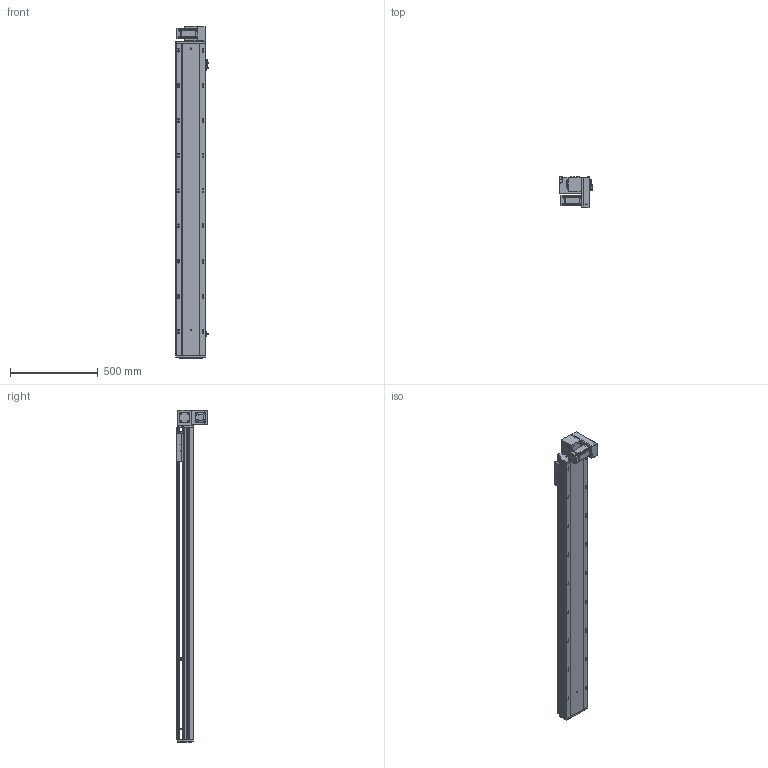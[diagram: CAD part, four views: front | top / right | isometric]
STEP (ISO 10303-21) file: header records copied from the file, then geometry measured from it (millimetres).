
FILE_DESCRIPTION (( 'STEP AP203' ), '1' );
FILE_NAME ('RY170-T-300-DR-P400W.SLDASM_1500.step', '2021-03-01T08:24:09', ( '盈信电脑' ), ( '东莞市道滘镇水果街19号' ), 'SwSTEP 2.0', 'SolidWorks 2012', '' );
FILE_SCHEMA (( 'CONFIG_CONTROL_DESIGN' ));
Length unit declared in the file: millimetre
Products named in the file (19): RY170-T-300-DR-P400W.SLDASM_1500; 15; 滅袉蝶18-10; RY170-T-呴雄粣揤踡啣; RY170-T蹟翐M4; RY120-T主同步轮轴承压盖; RY170-T肮祭謫裔啣; RY170-T肮祭湍揤踡輸1; RY170肮祭謫萇儂欶; RY170-T肮祭湍揤踡輸2; RY170肮祭謫ヶ裔啣; RY170翋肮祭謫釱; RY170外置感应片(200共用）; RY170同步轮电机安装板(400W); RY170綴裔啣; 覜茼ん672; RY170-T-300肮祭謫倰第裔啣-DR_1500; RY170-T-300肮祭謫倰第菁釱-DR_1500; RY170肮祭湍臏賑輸
Assembly tree (23 placements, depth 2):
  RY170-T-300-DR-P400W.SLDASM_1500
    RY170-T-300肮祭謫倰第菁釱-DR_1500
    RY170肮祭湍臏賑輸
    RY170-T-300肮祭謫倰第裔啣-DR_1500
    RY170綴裔啣
    覜茼ん672  x3
    RY170外置感应片(200共用）
    RY170肮祭謫ヶ裔啣
    RY170翋肮祭謫釱
    RY170同步轮电机安装板(400W)
    RY170肮祭謫萇儂欶
    RY170-T肮祭湍揤踡輸1  x2
    RY170-T肮祭湍揤踡輸2  x2
    RY120-T主同步轮轴承压盖
    RY170-T肮祭謫裔啣
    RY170-T蹟翐M4
    滅袉蝶18-10  x2
    RY170-T-呴雄粣揤踡啣
    15
Bounding box: 183.7 x 178 x 1888 mm (x, y, z)
Volume: 9005523.7 mm3; surface area: 3082168.5 mm2
Topology: 23 solids, 23 shells, 2874 faces, 7994 edges, 5111 vertices
Faces by surface type: cylinder 1304, plane 1268, cone 272, bspline 30
Entity records: 86253 total; most frequent: CARTESIAN_POINT 19387, ORIENTED_EDGE 13624, DIRECTION 13400, EDGE_CURVE 6812, AXIS2_PLACEMENT_3D 4734, VERTEX_POINT 4467, LINE 3932, VECTOR 3932
